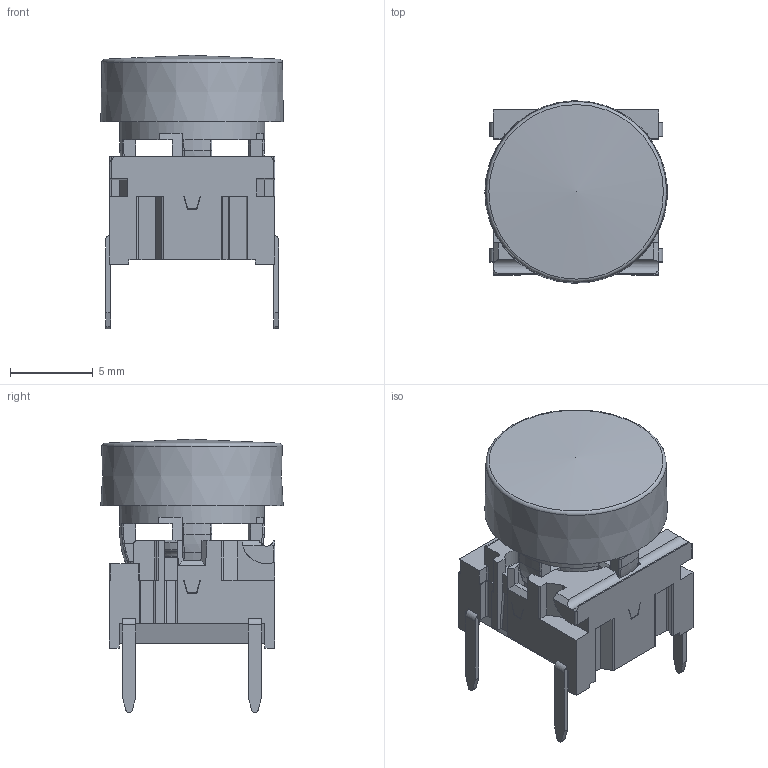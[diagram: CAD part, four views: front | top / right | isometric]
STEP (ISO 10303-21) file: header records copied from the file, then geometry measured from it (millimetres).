
FILE_DESCRIPTION(/* description */ (''),/* implementation_level */ '2;1');
FILE_NAME(/* name */ 'C:\Users\cgh.MEC\Desktop\Traceparts - 3D programserie\STEP filer\TH\5GTH9+1GAS.stp',/* time_stamp */ '2016-02-15T14:43:44+01:00',/* author */ ('cgh'),/* organization */ (''),/* preprocessor_version */ 'ST-DEVELOPER v15.2',/* originating_system */ 'Autodesk Inventor 2014',/* authorisation */ '');
FILE_SCHEMA (('AUTOMOTIVE_DESIGN { 1 0 10303 214 3 1 1 }'));
Length unit declared in the file: centimetre
Products named in the file (1): cgh
Bounding box: 11.01 x 11.02 x 16.51 mm (x, y, z)
Volume: 681.3 mm3; surface area: 1531.1 mm2
Topology: 1 solids, 1 shells, 995 faces, 2833 edges, 1855 vertices
Faces by surface type: plane 628, bspline 140, cylinder 131, torus 57, cone 38, sphere 1
Full cylindrical faces by diameter (mm): 0.9 x1, 1 x3, 2.8 x1, 4.73 x1, 6.5 x1, 7.2 x1, 7.44 x1, 8.76 x1
Entity records: 35873 total; most frequent: CARTESIAN_POINT 9849, ORIENTED_EDGE 5586, DIRECTION 4647, EDGE_CURVE 2789, VERTEX_POINT 1840, LINE 1759, VECTOR 1759, AXIS2_PLACEMENT_3D 1444
